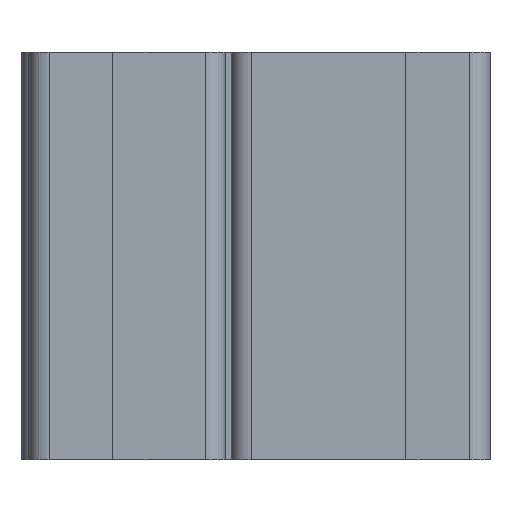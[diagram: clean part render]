
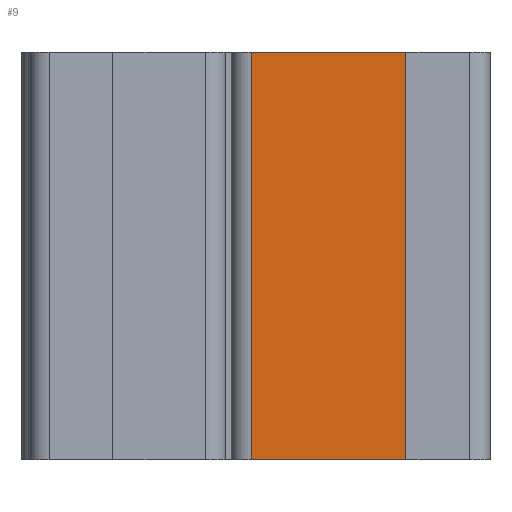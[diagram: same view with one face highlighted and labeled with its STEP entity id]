
A CAD part, left-side view. The second image highlights one B-rep face of the part: STEP entity #9.
In plain terms, the highlighted planar face has unit normal (-1, 0, 0) as drawn and (1, 0, 0) by its records, which use the part's own axes.
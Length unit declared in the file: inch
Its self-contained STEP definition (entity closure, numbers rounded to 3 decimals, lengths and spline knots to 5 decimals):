
#9 = ADVANCED_FACE ( 'NONE', ( #1431 ), #148, .F. ) ;
#62 = VERTEX_POINT ( 'NONE', #284 ) ;
#94 = VERTEX_POINT ( 'NONE', #315 ) ;
#96 = VERTEX_POINT ( 'NONE', #317 ) ;
#98 = VERTEX_POINT ( 'NONE', #319 ) ;
#148 = PLANE ( 'NONE',  #1192 ) ;
#149 = CARTESIAN_POINT ( 'NONE',  ( 0.835, 0.857, -1.06 ) ) ;
#154 = DIRECTION ( 'NONE',  ( -1., 0., 0. ) ) ;
#155 = DIRECTION ( 'NONE',  ( 0., -1., 0. ) ) ;
#284 = CARTESIAN_POINT ( 'NONE',  ( 0.835, 0.807, 0.44 ) ) ;
#315 = CARTESIAN_POINT ( 'NONE',  ( 0.835, 0.075, -1.06 ) ) ;
#317 = CARTESIAN_POINT ( 'NONE',  ( 0.835, 0.075, 0.44 ) ) ;
#319 = CARTESIAN_POINT ( 'NONE',  ( 0.835, 0.807, -1.06 ) ) ;
#391 = CARTESIAN_POINT ( 'NONE',  ( 0.835, 0.857, -1.06 ) ) ;
#392 = DIRECTION ( 'NONE',  ( 0., -1., 0. ) ) ;
#523 = CARTESIAN_POINT ( 'NONE',  ( 0.835, 0.857, 0.44 ) ) ;
#524 = DIRECTION ( 'NONE',  ( 0., -1., 0. ) ) ;
#535 = CARTESIAN_POINT ( 'NONE',  ( 0.835, 0.075, -1.06 ) ) ;
#536 = DIRECTION ( 'NONE',  ( 0., 0., -1. ) ) ;
#599 = CARTESIAN_POINT ( 'NONE',  ( 0.835, 0.807, 0.44 ) ) ;
#600 = DIRECTION ( 'NONE',  ( 0., 0., 1. ) ) ;
#786 = EDGE_LOOP ( 'NONE', ( #1398, #1412, #1407, #1400 ) ) ;
#1097 = EDGE_CURVE ( 'NONE', #62, #96, #1335, .T. ) ;
#1103 = EDGE_CURVE ( 'NONE', #96, #94, #1347, .T. ) ;
#1130 = EDGE_CURVE ( 'NONE', #98, #62, #1729, .T. ) ;
#1163 = EDGE_CURVE ( 'NONE', #98, #94, #1676, .T. ) ;
#1192 = AXIS2_PLACEMENT_3D ( 'NONE', #149, #154, #155 ) ;
#1333 = VECTOR ( 'NONE', #524, 39.37008 ) ;
#1335 = LINE ( 'NONE', #523, #1333 ) ;
#1347 = LINE ( 'NONE', #535, #1348 ) ;
#1348 = VECTOR ( 'NONE', #536, 39.37008 ) ;
#1398 = ORIENTED_EDGE ( 'NONE', *, *, #1097, .T. ) ;
#1400 = ORIENTED_EDGE ( 'NONE', *, *, #1130, .T. ) ;
#1407 = ORIENTED_EDGE ( 'NONE', *, *, #1163, .F. ) ;
#1412 = ORIENTED_EDGE ( 'NONE', *, *, #1103, .T. ) ;
#1431 = FACE_OUTER_BOUND ( 'NONE', #786, .T. ) ;
#1676 = LINE ( 'NONE', #391, #1677 ) ;
#1677 = VECTOR ( 'NONE', #392, 39.37008 ) ;
#1729 = LINE ( 'NONE', #599, #1730 ) ;
#1730 = VECTOR ( 'NONE', #600, 39.37008 ) ;
